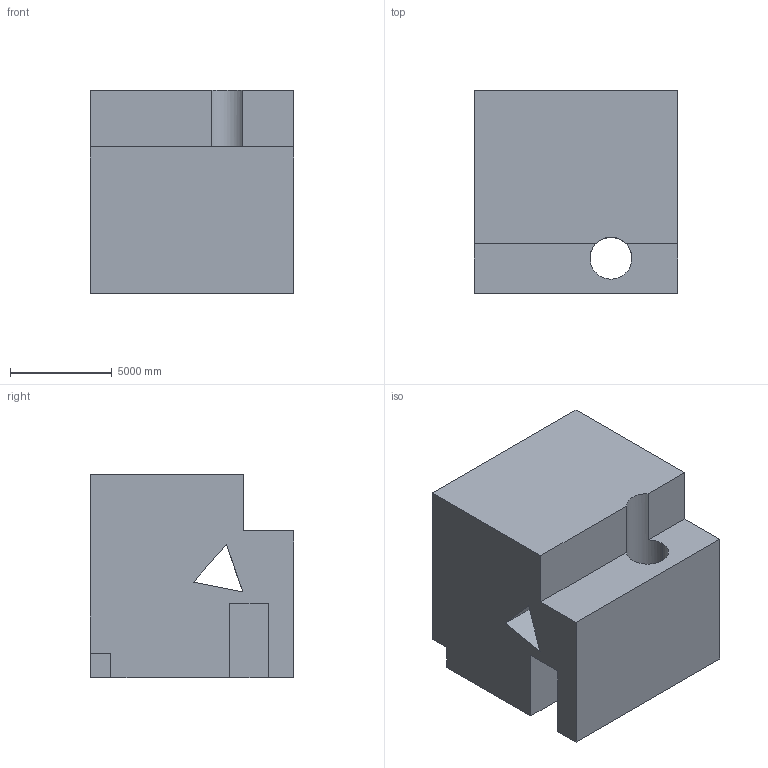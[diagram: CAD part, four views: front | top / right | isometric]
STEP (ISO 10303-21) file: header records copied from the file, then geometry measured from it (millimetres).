
FILE_DESCRIPTION (( 'STEP AP203' ), '1' );
FILE_NAME ('1416.STEP', '2022-08-18T14:20:52', ( 'user' ), ( '' ), 'SwSTEP 2.0', 'SolidWorks 2021', '' );
FILE_SCHEMA (( 'CONFIG_CONTROL_DESIGN' ));
Length unit declared in the file: centimetre
Products named in the file (1): 1416
Bounding box: 10000 x 10000 x 10000 mm (x, y, z)
Volume: 853661977114.3 mm3; surface area: 714804395.9 mm2
Topology: 1 solids, 1 shells, 21 faces, 63 edges, 42 vertices
Faces by surface type: plane 19, cylinder 2
Entity records: 792 total; most frequent: CARTESIAN_POINT 133, ORIENTED_EDGE 126, DIRECTION 111, EDGE_CURVE 63, LINE 55, VECTOR 55, VERTEX_POINT 42, AXIS2_PLACEMENT_3D 28
